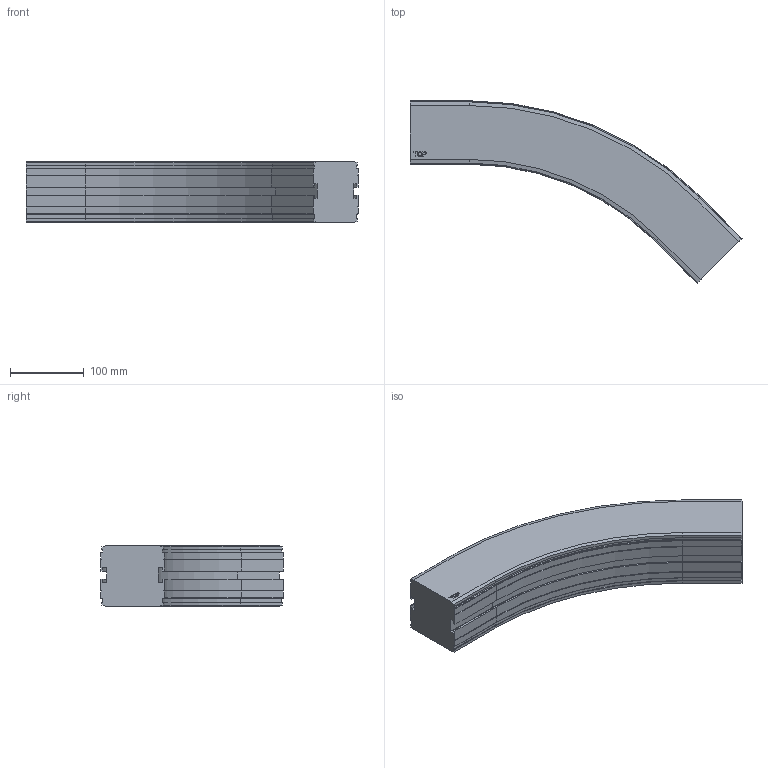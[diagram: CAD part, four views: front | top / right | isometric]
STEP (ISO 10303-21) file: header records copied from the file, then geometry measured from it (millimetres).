
FILE_DESCRIPTION((''),'2;1');
FILE_NAME('C:\Vault Klient\Projekt\Koncept konstruktion\Serie 830 Balk\830-5250.stp','2009-11-27T09:41:15',('Mathias'),(''),'Autodesk Inventor 2010','Autodesk Inventor 2010','');
FILE_SCHEMA(('AUTOMOTIVE_DESIGN { 1 0 10303 214 1 1 1 1 }'));
Length unit declared in the file: millimetre
Products named in the file (1): 830-5250
Bounding box: 449.82 x 247.13 x 81.5 mm (x, y, z)
Volume: 3151679.4 mm3; surface area: 207041.2 mm2
Topology: 1 solids, 1 shells, 169 faces, 446 edges, 284 vertices
Faces by surface type: plane 109, cylinder 30, bspline 14, cone 12, torus 4
Entity records: 5295 total; most frequent: CARTESIAN_POINT 1094, ORIENTED_EDGE 892, DIRECTION 802, EDGE_CURVE 446, VECTOR 346, LINE 346, VERTEX_POINT 284, AXIS2_PLACEMENT_3D 228
